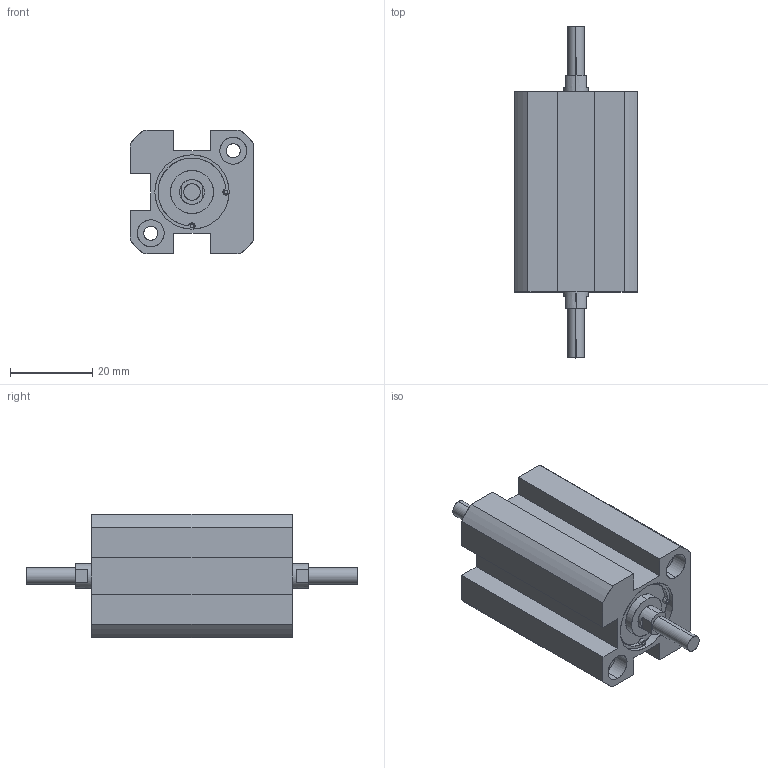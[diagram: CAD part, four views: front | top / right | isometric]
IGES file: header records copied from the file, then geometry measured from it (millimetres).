
Start section: SolidWorks IGES file using analytic representation for surfaces
Global section: file name: C:\Users\Toshiba\Desktop\XG#M7-16D-10.IGS; native system: SolidWorks 2014; preprocessor: SolidWorks 2014; author: Toshiba; date: 160524.102158; units: millimetre
Bounding box: 30 x 80.5 x 30 mm (x, y, z)
Surface area: 10702.2 mm2 (no closed solid volume)
Topology: 0 solids, 0 shells, 106 faces, 1752 edges, 1748 vertices
Faces by surface type: revolution 62, bspline 44
